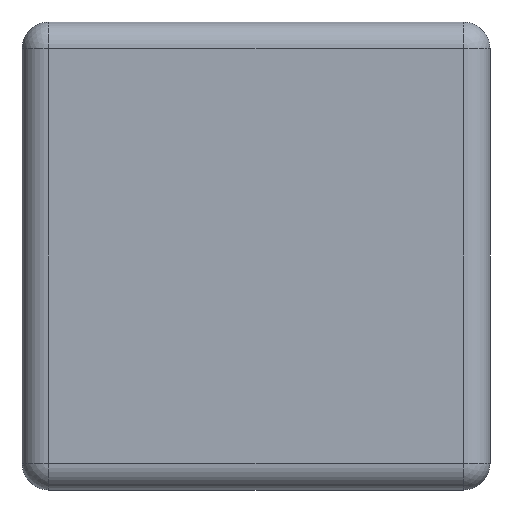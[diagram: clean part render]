
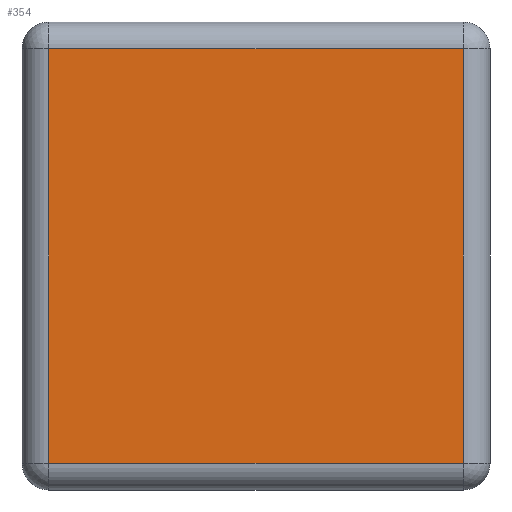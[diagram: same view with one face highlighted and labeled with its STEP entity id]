
A CAD part, front view. The second image highlights one B-rep face of the part: STEP entity #354.
In plain terms, the highlighted planar face has unit normal (0, -1, 0).
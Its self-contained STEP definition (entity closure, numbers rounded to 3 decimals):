
#16=PLANE('',#418);
#26=LINE('',#593,#50);
#29=LINE('',#612,#53);
#34=LINE('',#626,#58);
#36=LINE('',#629,#60);
#50=VECTOR('',#476,10.);
#53=VECTOR('',#499,10.);
#58=VECTOR('',#516,10.);
#60=VECTOR('',#520,10.);
#102=FACE_OUTER_BOUND('',#128,.T.);
#128=EDGE_LOOP('',(#305,#306,#307,#308));
#163=VERTEX_POINT('',#568);
#171=VERTEX_POINT('',#588);
#175=VERTEX_POINT('',#605);
#180=VERTEX_POINT('',#621);
#201=EDGE_CURVE('',#163,#171,#26,.T.);
#210=EDGE_CURVE('',#175,#163,#29,.T.);
#218=EDGE_CURVE('',#171,#180,#34,.T.);
#220=EDGE_CURVE('',#180,#175,#36,.T.);
#305=ORIENTED_EDGE('',*,*,#201,.F.);
#306=ORIENTED_EDGE('',*,*,#210,.F.);
#307=ORIENTED_EDGE('',*,*,#220,.F.);
#308=ORIENTED_EDGE('',*,*,#218,.F.);
#354=ADVANCED_FACE('',(#102),#16,.T.);
#418=AXIS2_PLACEMENT_3D('',#643,#539,#540);
#476=DIRECTION('',(-1.,0.,0.));
#499=DIRECTION('',(0.,0.,-1.));
#516=DIRECTION('',(0.,0.,1.));
#520=DIRECTION('',(1.,0.,0.));
#539=DIRECTION('center_axis',(0.,-1.,0.));
#540=DIRECTION('ref_axis',(1.,0.,0.));
#568=CARTESIAN_POINT('',(155.,-175.,20.));
#588=CARTESIAN_POINT('',(-155.,-175.,20.));
#593=CARTESIAN_POINT('',(-87.5,-175.,20.));
#605=CARTESIAN_POINT('',(155.,-175.,330.));
#612=CARTESIAN_POINT('',(155.,-175.,0.));
#621=CARTESIAN_POINT('',(-155.,-175.,330.));
#626=CARTESIAN_POINT('',(-155.,-175.,0.));
#629=CARTESIAN_POINT('',(-87.5,-175.,330.));
#643=CARTESIAN_POINT('Origin',(-175.,-175.,0.));
